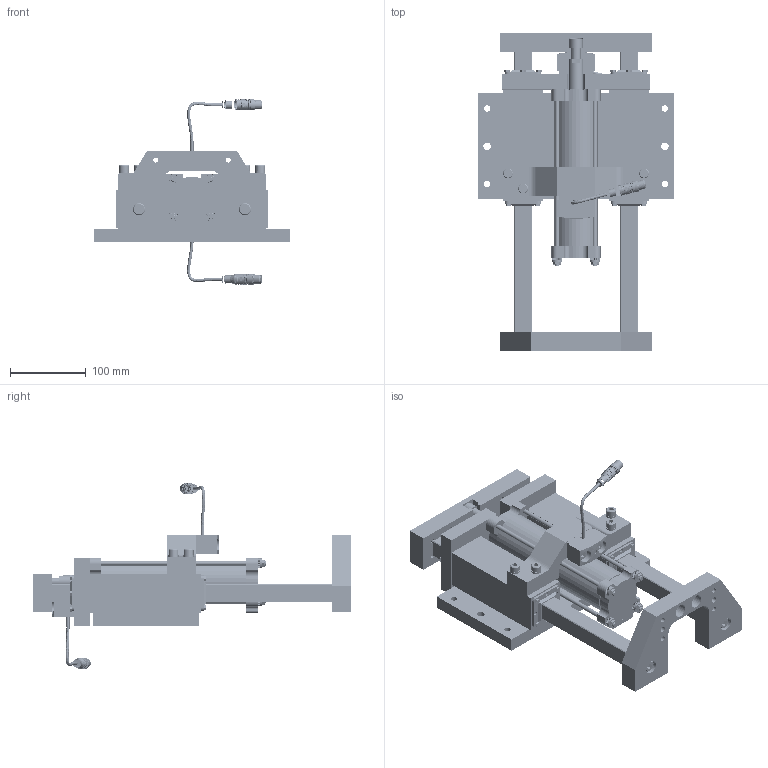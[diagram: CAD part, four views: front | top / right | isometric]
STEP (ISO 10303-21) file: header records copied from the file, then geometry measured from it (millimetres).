
FILE_DESCRIPTION(/* description */ (''),/* implementation_level */ '2;1');
FILE_NAME(/* name */ 'C:\Vault Workspace\CAD\Welker\Shot Pin\DBL24\STANDARD\DB2150B01XP1XXX0000-RET.stp',/* time_stamp */ '2018-03-26T08:03:49-04:00',/* author */ ('KLabrecque'),/* organization */ (''),/* preprocessor_version */ 'ST-DEVELOPER v17',/* originating_system */ 'Autodesk Inventor 2018',/* authorisation */ '');
FILE_SCHEMA (('AUTOMOTIVE_DESIGN { 1 0 10303 214 3 1 1 }'));
Products named in the file (1): DB2L01_Shrinkwrap_1
Bounding box: 260 x 421 x 246.1 mm (x, y, z)
Volume: 3155267.5 mm3; surface area: 754919.8 mm2
Topology: 116 solids, 116 shells, 5431 faces, 14422 edges, 9571 vertices
Faces by surface type: plane 3132, cylinder 1195, bspline 566, cone 515, torus 23
Full cylindrical faces by diameter (mm): 2.5 x1, 3.175 x6, 3.734 x16, 4.064 x2, 4.166 x16, 4.2 x2, 4.763 x32, 4.917 x12, 5.359 x8, 6 x12, 6.35 x2, 6.5 x30, 6.563 x16, 6.63 x2, 6.647 x8, 7.95 x4, 8 x34, 8.13 x2, 8.334 x12, 8.376 x12, 8.5 x16, 8.7 x16, 9.728 x3, 10 x18, 10.211 x2, 10.287 x2, 10.35 x18, 10.494 x2, 10.5 x10, 10.7 x4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
Entity records: 197057 total; most frequent: CARTESIAN_POINT 61862, ORIENTED_EDGE 28728, DIRECTION 24168, EDGE_CURVE 14364, VERTEX_POINT 9571, AXIS2_PLACEMENT_3D 8688, LINE 6792, VECTOR 6792
